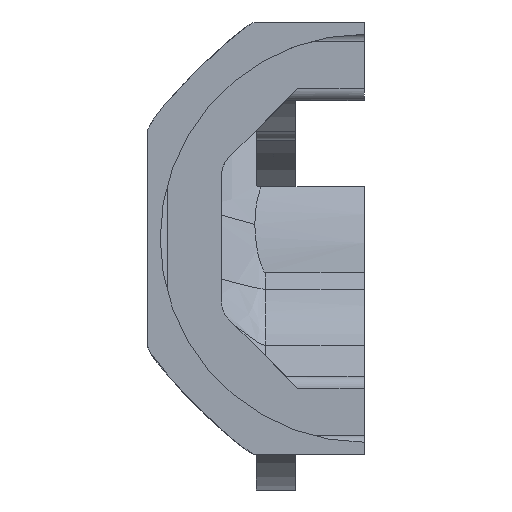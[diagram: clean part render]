
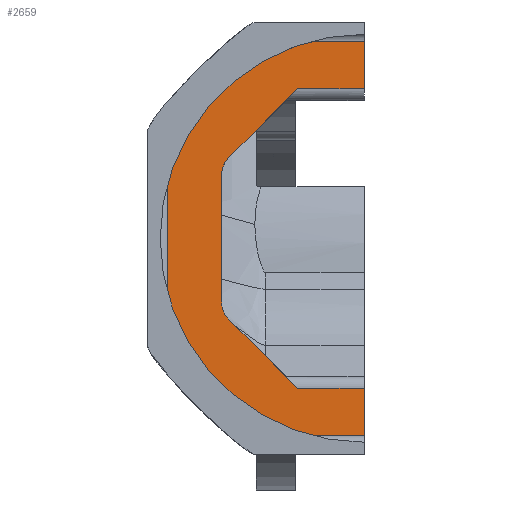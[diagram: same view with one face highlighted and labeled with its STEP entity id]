
A CAD part, top view. The second image highlights one B-rep face of the part: STEP entity #2659.
In plain terms, the highlighted planar face has unit normal (0, 0, 1).
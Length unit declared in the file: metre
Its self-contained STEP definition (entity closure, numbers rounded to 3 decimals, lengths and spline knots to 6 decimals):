
#159=LINE('',#4248,#305);
#190=LINE('',#4929,#336);
#210=LINE('',#5052,#356);
#242=LINE('',#5544,#388);
#243=LINE('',#5564,#389);
#244=LINE('',#5565,#390);
#245=LINE('',#5567,#391);
#246=LINE('',#5571,#392);
#247=LINE('',#5574,#393);
#248=LINE('',#5575,#394);
#305=VECTOR('',#3157,1.);
#336=VECTOR('',#3226,1.);
#356=VECTOR('',#3284,1.);
#388=VECTOR('',#3440,1.);
#389=VECTOR('',#3441,1.);
#390=VECTOR('',#3442,1.);
#391=VECTOR('',#3443,1.);
#392=VECTOR('',#3446,1.);
#393=VECTOR('',#3449,1.);
#394=VECTOR('',#3450,1.);
#516=B_SPLINE_CURVE_WITH_KNOTS('',3,(#5525,#5526,#5527,#5528,#5529,#5530,
#5531,#5532,#5533,#5534,#5535,#5536,#5537,#5538,#5539,#5540,#5541),
 .UNSPECIFIED.,.F.,.F.,(4,1,1,1,1,1,1,1,1,1,1,1,1,1,4),(0.,0.000909,
0.001817,0.003635,0.005452,0.007269,
0.010904,0.014539,0.018173,0.021808,
0.023625,0.025442,0.02726,0.028168,
0.029077),.UNSPECIFIED.);
#517=B_SPLINE_CURVE_WITH_KNOTS('',3,(#5546,#5547,#5548,#5549,#5550,#5551,
#5552,#5553,#5554,#5555,#5556,#5557,#5558,#5559,#5560,#5561,#5562),
 .UNSPECIFIED.,.F.,.F.,(4,1,1,1,1,1,1,1,1,1,1,1,1,1,4),(0.,0.000909,
0.001817,0.003635,0.005452,0.007269,
0.010904,0.014539,0.018173,0.021808,
0.023625,0.025442,0.02726,0.028168,
0.029077),.UNSPECIFIED.);
#1035=ORIENTED_EDGE('',*,*,#1643,.F.);
#1036=ORIENTED_EDGE('',*,*,#1644,.F.);
#1037=ORIENTED_EDGE('',*,*,#1645,.F.);
#1038=ORIENTED_EDGE('',*,*,#1646,.F.);
#1039=ORIENTED_EDGE('',*,*,#1532,.T.);
#1040=ORIENTED_EDGE('',*,*,#1647,.F.);
#1041=ORIENTED_EDGE('',*,*,#1648,.T.);
#1042=ORIENTED_EDGE('',*,*,#1649,.F.);
#1043=ORIENTED_EDGE('',*,*,#1650,.T.);
#1044=ORIENTED_EDGE('',*,*,#1651,.F.);
#1045=ORIENTED_EDGE('',*,*,#1444,.T.);
#1046=ORIENTED_EDGE('',*,*,#1652,.F.);
#1047=ORIENTED_EDGE('',*,*,#1569,.F.);
#1048=ORIENTED_EDGE('',*,*,#1653,.F.);
#1444=EDGE_CURVE('',#1828,#1829,#159,.T.);
#1532=EDGE_CURVE('',#1898,#1897,#190,.T.);
#1569=EDGE_CURVE('',#1927,#1928,#210,.T.);
#1643=EDGE_CURVE('',#1965,#1966,#516,.T.);
#1644=EDGE_CURVE('',#1967,#1965,#242,.T.);
#1645=EDGE_CURVE('',#1968,#1967,#517,.T.);
#1646=EDGE_CURVE('',#1898,#1968,#243,.F.);
#1647=EDGE_CURVE('',#1969,#1897,#244,.T.);
#1648=EDGE_CURVE('',#1969,#1970,#245,.T.);
#1649=EDGE_CURVE('',#1971,#1970,#2085,.F.);
#1650=EDGE_CURVE('',#1971,#1972,#246,.T.);
#1651=EDGE_CURVE('',#1828,#1972,#2086,.F.);
#1652=EDGE_CURVE('',#1928,#1829,#247,.F.);
#1653=EDGE_CURVE('',#1966,#1927,#248,.T.);
#1828=VERTEX_POINT('',#4249);
#1829=VERTEX_POINT('',#4250);
#1897=VERTEX_POINT('',#4928);
#1898=VERTEX_POINT('',#4930);
#1927=VERTEX_POINT('',#5051);
#1928=VERTEX_POINT('',#5053);
#1965=VERTEX_POINT('',#5542);
#1966=VERTEX_POINT('',#5543);
#1967=VERTEX_POINT('',#5545);
#1968=VERTEX_POINT('',#5563);
#1969=VERTEX_POINT('',#5566);
#1970=VERTEX_POINT('',#5568);
#1971=VERTEX_POINT('',#5570);
#1972=VERTEX_POINT('',#5572);
#2085=CIRCLE('',#2918,0.005);
#2086=CIRCLE('',#2919,0.005);
#2227=EDGE_LOOP('',(#1035,#1036,#1037,#1038,#1039,#1040,#1041,#1042,#1043,
#1044,#1045,#1046,#1047,#1048));
#2436=FACE_BOUND('',#2227,.T.);
#2559=PLANE('',#2917);
#2659=ADVANCED_FACE('',(#2436),#2559,.T.);
#2917=AXIS2_PLACEMENT_3D('',#5524,#3438,#3439);
#2918=AXIS2_PLACEMENT_3D('',#5569,#3444,#3445);
#2919=AXIS2_PLACEMENT_3D('',#5573,#3447,#3448);
#3157=DIRECTION('',(0.707,0.707,0.));
#3226=DIRECTION('',(0.,1.,0.));
#3284=DIRECTION('',(0.,-1.,0.));
#3438=DIRECTION('',(0.,0.,1.));
#3439=DIRECTION('',(0.,-1.,0.));
#3440=DIRECTION('',(0.,1.,0.));
#3441=DIRECTION('',(1.,0.,0.));
#3442=DIRECTION('',(1.,0.,0.));
#3443=DIRECTION('',(-0.707,0.707,0.));
#3444=DIRECTION('',(0.,0.,-1.));
#3445=DIRECTION('',(0.,-1.,0.));
#3446=DIRECTION('',(0.,1.,0.));
#3447=DIRECTION('',(0.,0.,-1.));
#3448=DIRECTION('',(0.,-1.,0.));
#3449=DIRECTION('',(1.,0.,0.));
#3450=DIRECTION('',(1.,0.,0.));
#4248=CARTESIAN_POINT('',(-0.2345,0.0275,0.18225));
#4249=CARTESIAN_POINT('',(-0.240536,0.021465,0.18225));
#4250=CARTESIAN_POINT('',(-0.2265,0.0355,0.18225));
#4928=CARTESIAN_POINT('',(-0.213,-0.0255,0.18225));
#4929=CARTESIAN_POINT('',(-0.213,-0.03,0.18225));
#4930=CARTESIAN_POINT('',(-0.213,-0.035,0.18225));
#5051=CARTESIAN_POINT('',(-0.213,0.045,0.18225));
#5052=CARTESIAN_POINT('',(-0.213,0.04,0.18225));
#5053=CARTESIAN_POINT('',(-0.213,0.0355,0.18225));
#5524=CARTESIAN_POINT('',(-0.257002,0.005238,0.18225));
#5525=CARTESIAN_POINT('',(-0.253,0.024787,0.18225));
#5526=CARTESIAN_POINT('',(-0.252874,0.025063,0.18225));
#5527=CARTESIAN_POINT('',(-0.252551,0.025575,0.18225));
#5528=CARTESIAN_POINT('',(-0.25187,0.026559,0.18225));
#5529=CARTESIAN_POINT('',(-0.250952,0.02774,0.18225));
#5530=CARTESIAN_POINT('',(-0.249806,0.029121,0.18225));
#5531=CARTESIAN_POINT('',(-0.248232,0.030925,0.18225));
#5532=CARTESIAN_POINT('',(-0.246201,0.033128,0.18225));
#5533=CARTESIAN_POINT('',(-0.243696,0.035697,0.18225));
#5534=CARTESIAN_POINT('',(-0.241126,0.038202,0.18225));
#5535=CARTESIAN_POINT('',(-0.238928,0.040229,0.18225));
#5536=CARTESIAN_POINT('',(-0.237123,0.041804,0.18225));
#5537=CARTESIAN_POINT('',(-0.235738,0.042954,0.18225));
#5538=CARTESIAN_POINT('',(-0.234556,0.043872,0.18225));
#5539=CARTESIAN_POINT('',(-0.233569,0.044555,0.18225));
#5540=CARTESIAN_POINT('',(-0.233061,0.044875,0.18225));
#5541=CARTESIAN_POINT('',(-0.232787,0.045,0.18225));
#5542=CARTESIAN_POINT('',(-0.253,0.024787,0.18225));
#5543=CARTESIAN_POINT('',(-0.232787,0.045,0.18225));
#5544=CARTESIAN_POINT('',(-0.253,0.005238,0.18225));
#5545=CARTESIAN_POINT('',(-0.253,-0.014787,0.18225));
#5546=CARTESIAN_POINT('',(-0.232787,-0.035,0.18225));
#5547=CARTESIAN_POINT('',(-0.233062,-0.034874,0.18225));
#5548=CARTESIAN_POINT('',(-0.233575,-0.034551,0.18225));
#5549=CARTESIAN_POINT('',(-0.234559,-0.03387,0.18225));
#5550=CARTESIAN_POINT('',(-0.23574,-0.032952,0.18225));
#5551=CARTESIAN_POINT('',(-0.23712,-0.031806,0.18225));
#5552=CARTESIAN_POINT('',(-0.238925,-0.030232,0.18225));
#5553=CARTESIAN_POINT('',(-0.241127,-0.028201,0.18225));
#5554=CARTESIAN_POINT('',(-0.243697,-0.025696,0.18225));
#5555=CARTESIAN_POINT('',(-0.246202,-0.023126,0.18225));
#5556=CARTESIAN_POINT('',(-0.248229,-0.020927,0.18225));
#5557=CARTESIAN_POINT('',(-0.249804,-0.019123,0.18225));
#5558=CARTESIAN_POINT('',(-0.250953,-0.017738,0.18225));
#5559=CARTESIAN_POINT('',(-0.251872,-0.016556,0.18225));
#5560=CARTESIAN_POINT('',(-0.252555,-0.015569,0.18225));
#5561=CARTESIAN_POINT('',(-0.252874,-0.015061,0.18225));
#5562=CARTESIAN_POINT('',(-0.253,-0.014787,0.18225));
#5563=CARTESIAN_POINT('',(-0.232787,-0.035,0.18225));
#5564=CARTESIAN_POINT('',(-0.233,-0.035,0.18225));
#5565=CARTESIAN_POINT('',(-0.257002,-0.0255,0.18225));
#5566=CARTESIAN_POINT('',(-0.2265,-0.0255,0.18225));
#5567=CARTESIAN_POINT('',(-0.2345,-0.0175,0.18225));
#5568=CARTESIAN_POINT('',(-0.240536,-0.011464,0.18225));
#5569=CARTESIAN_POINT('',(-0.237,-0.007929,0.18225));
#5570=CARTESIAN_POINT('',(-0.242,-0.007929,0.18225));
#5571=CARTESIAN_POINT('',(-0.242,0.005,0.18225));
#5572=CARTESIAN_POINT('',(-0.242,0.017929,0.18225));
#5573=CARTESIAN_POINT('',(-0.237,0.017929,0.18225));
#5574=CARTESIAN_POINT('',(-0.229,0.0355,0.18225));
#5575=CARTESIAN_POINT('',(-0.213,0.045,0.18225));
